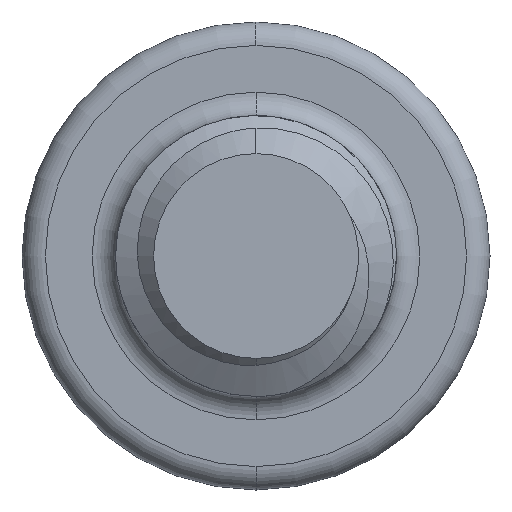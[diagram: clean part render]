
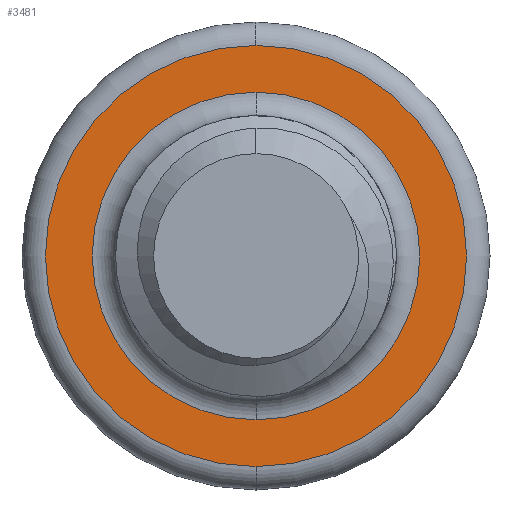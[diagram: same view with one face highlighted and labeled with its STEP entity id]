
A CAD part, left-side view. The second image highlights one B-rep face of the part: STEP entity #3481.
In plain terms, the highlighted planar face has unit normal (-1, 0, 0).
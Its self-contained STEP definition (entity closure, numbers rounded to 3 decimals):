
#55 = CARTESIAN_POINT ( 'NONE',  ( 2., 0., 0. ) ) ;
#126 = DIRECTION ( 'NONE',  ( -1., 0., 0. ) ) ;
#212 = EDGE_CURVE ( 'NONE', #3218, #1084, #3449, .T. ) ;
#232 = CARTESIAN_POINT ( 'NONE',  ( 2., 0., -0.7 ) ) ;
#296 = ORIENTED_EDGE ( 'NONE', *, *, #3299, .T. ) ;
#363 = DIRECTION ( 'NONE',  ( 0., 0., -1. ) ) ;
#379 = DIRECTION ( 'NONE',  ( 0., 0., -1. ) ) ;
#464 = EDGE_LOOP ( 'NONE', ( #1739, #296 ) ) ;
#562 = CARTESIAN_POINT ( 'NONE',  ( 2., 0., 0. ) ) ;
#564 = AXIS2_PLACEMENT_3D ( 'NONE', #2941, #1139, #3249 ) ;
#685 = ORIENTED_EDGE ( 'NONE', *, *, #2089, .T. ) ;
#844 = DIRECTION ( 'NONE',  ( 0., 0., -1. ) ) ;
#1084 = VERTEX_POINT ( 'NONE', #1508 ) ;
#1139 = DIRECTION ( 'NONE',  ( -1., 0., 0. ) ) ;
#1287 = CARTESIAN_POINT ( 'NONE',  ( 2., 0., -0.9 ) ) ;
#1330 = CIRCLE ( 'NONE', #564, 0.9 ) ;
#1508 = CARTESIAN_POINT ( 'NONE',  ( 2., 0., 0.7 ) ) ;
#1739 = ORIENTED_EDGE ( 'NONE', *, *, #212, .T. ) ;
#1863 = CARTESIAN_POINT ( 'NONE',  ( 2., 0., 0. ) ) ;
#1919 = CARTESIAN_POINT ( 'NONE',  ( 2., 0., 0. ) ) ;
#2002 = CIRCLE ( 'NONE', #2915, 0.7 ) ;
#2089 = EDGE_CURVE ( 'NONE', #3490, #2090, #1330, .T. ) ;
#2090 = VERTEX_POINT ( 'NONE', #2658 ) ;
#2150 = PLANE ( 'NONE',  #3234 ) ;
#2151 = DIRECTION ( 'NONE',  ( 1., 0., 0. ) ) ;
#2166 = DIRECTION ( 'NONE',  ( 1., 0., 0. ) ) ;
#2220 = DIRECTION ( 'NONE',  ( 0., 0., -1. ) ) ;
#2523 = FACE_OUTER_BOUND ( 'NONE', #3854, .T. ) ;
#2577 = AXIS2_PLACEMENT_3D ( 'NONE', #1919, #126, #2220 ) ;
#2644 = DIRECTION ( 'NONE',  ( 1., 0., 0. ) ) ;
#2658 = CARTESIAN_POINT ( 'NONE',  ( 2., 0., 0.9 ) ) ;
#2915 = AXIS2_PLACEMENT_3D ( 'NONE', #562, #2644, #844 ) ;
#2919 = EDGE_CURVE ( 'NONE', #2090, #3490, #3555, .T. ) ;
#2941 = CARTESIAN_POINT ( 'NONE',  ( 2., 0., 0. ) ) ;
#3218 = VERTEX_POINT ( 'NONE', #232 ) ;
#3224 = FACE_BOUND ( 'NONE', #464, .T. ) ;
#3234 = AXIS2_PLACEMENT_3D ( 'NONE', #1863, #2166, #379 ) ;
#3249 = DIRECTION ( 'NONE',  ( 0., 0., -1. ) ) ;
#3299 = EDGE_CURVE ( 'NONE', #1084, #3218, #2002, .T. ) ;
#3449 = CIRCLE ( 'NONE', #3824, 0.7 ) ;
#3481 = ADVANCED_FACE ( 'NONE', ( #2523, #3224 ), #2150, .F. ) ;
#3490 = VERTEX_POINT ( 'NONE', #1287 ) ;
#3555 = CIRCLE ( 'NONE', #2577, 0.9 ) ;
#3567 = ORIENTED_EDGE ( 'NONE', *, *, #2919, .T. ) ;
#3824 = AXIS2_PLACEMENT_3D ( 'NONE', #55, #2151, #363 ) ;
#3854 = EDGE_LOOP ( 'NONE', ( #685, #3567 ) ) ;
